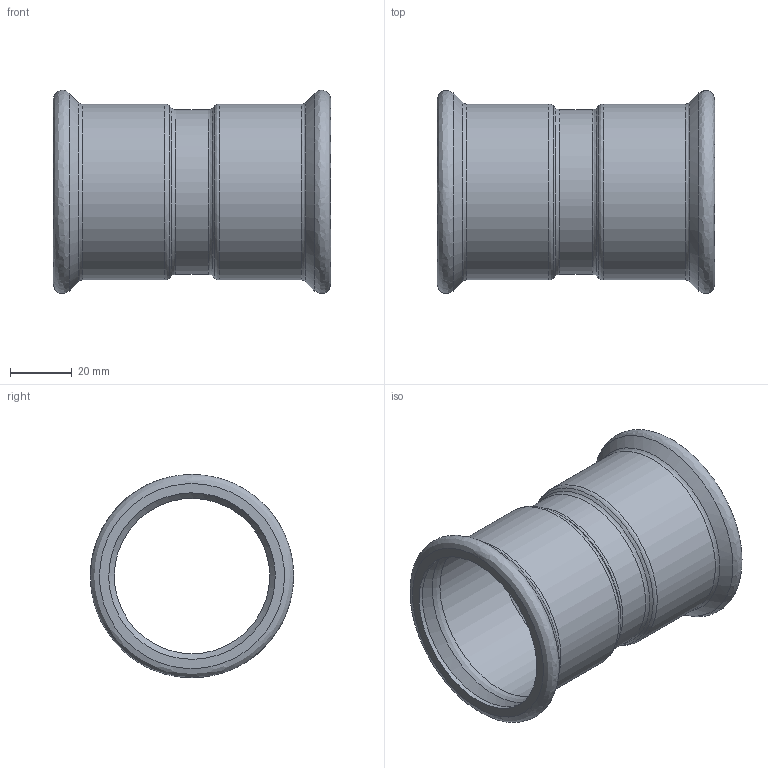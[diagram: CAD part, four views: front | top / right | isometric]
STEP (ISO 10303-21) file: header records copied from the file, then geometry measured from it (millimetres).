
FILE_DESCRIPTION(('FreeCAD Model'),'2;1');
FILE_NAME('Open CASCADE Shape Model','2025-10-20T15:02:38',('Author'),( ''),'Open CASCADE STEP processor 7.8','FreeCAD','Unknown');
FILE_SCHEMA(('AUTOMOTIVE_DESIGN { 1 0 10303 214 1 1 1 1 }'));
Length unit declared in the file: millimetre
Products named in the file (1): Solido1
Bounding box: 90 x 65.88 x 65.94 mm (x, y, z)
Volume: 26643.1 mm3; surface area: 36469.7 mm2
Topology: 1 solids, 1 shells, 32 faces, 114 edges, 86 vertices
Faces by surface type: bspline 32
Entity records: 1786 total; most frequent: CARTESIAN_POINT 1205, ORIENTED_EDGE 228, EDGE_CURVE 114, VERTEX_POINT 86, FACE_BOUND 36, EDGE_LOOP 36, ADVANCED_FACE 32, B_SPLINE_CURVE_WITH_KNOTS 16
